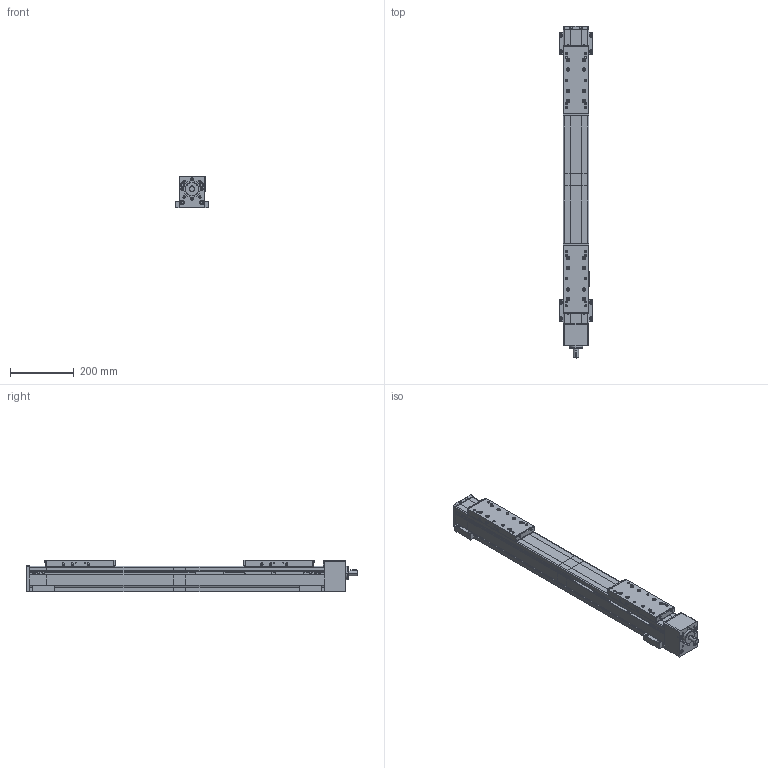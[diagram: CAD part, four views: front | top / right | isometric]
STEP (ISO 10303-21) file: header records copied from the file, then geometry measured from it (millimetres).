
FILE_DESCRIPTION(('Creo Elements/Direct Modeling STEP Export'),'2;1');
FILE_NAME('B080-SSS-RL-210-EN.stp','2020-02-25T 8:57:08',(''),(''),'Creo Elements/Direct Modeling STEP processor for AP214 (Solid Model)','Creo Elements/Direct Modeling 20.1C 13-Oct-2019 (C) Parametric Technology GmbH','');
FILE_SCHEMA(('AUTOMOTIVE_DESIGN { 1 0 10303 214 1 1 1 1 }'));
Length unit declared in the file: millimetre
Products named in the file (26): Beta080-SRS-SSS-Grundkoerper-Teil1; Beta080-SRS-SSS-Schlitten; Abstreiferbuerste-Blau_10504.02; Schraube_M_4x8_ISO_7380_va_10252.01; Abstreifer_kpl.02; Schlitten_kpl; Beta080-SRS-SSS-Grundkoerper-Teil2; BL2; BL2.1; Befestigungsleistenpaar; Befestigungsleistenpaar.1; Befestigungsleisten; NS3; NS3.1; Nutensteinpaar; Nutensteine; Endschalter_induktiv; Endschalter_induktiv.1; Endschalter_induktiv.2; Schaltfahne_10406; Linsenschraube_M4x8_EN_ISO_7380_1_10.9_vz_10243; Schaltfahne_10406_kpl; Endschalter-induktiv; B080-SSS-RL-210-EN
Assembly tree (29 placements, depth 4):
  B080-SSS-RL-210-EN
    Endschalter-induktiv
      Schaltfahne_10406_kpl
        Linsenschraube_M4x8_EN_ISO_7380_1_10.9_vz_10243  x2
        Schaltfahne_10406
      Endschalter_induktiv.2
      Endschalter_induktiv.1
      Endschalter_induktiv
    Schlitten_kpl  x2
      Abstreifer_kpl.02
        Schraube_M_4x8_ISO_7380_va_10252.01  x2
        Abstreiferbuerste-Blau_10504.02
      Beta080-SRS-SSS-Schlitten
    Nutensteine
      Nutensteinpaar
        NS3.1
        NS3
    Befestigungsleisten
      Befestigungsleistenpaar.1
        BL2.1
        BL2
      Befestigungsleistenpaar
        BL2.1
        BL2
    Beta080-SRS-SSS-Grundkoerper-Teil2
    Beta080-SRS-SSS-Grundkoerper-Teil1
Bounding box: 106 x 1038 x 100 mm (x, y, z)
Volume: 6948456.1 mm3; surface area: 604915.9 mm2
Topology: 28 solids, 28 shells, 1999 faces, 4585 edges, 2774 vertices
Faces by surface type: plane 1027, cylinder 668, cone 228, torus 56, sphere 20
Entity records: 41715 total; most frequent: CARTESIAN_POINT 9898, ORIENTED_EDGE 6830, DIRECTION 5642, EDGE_CURVE 3415, VERTEX_POINT 2112, AXIS2_PLACEMENT_3D 1905, VECTOR 1832, LINE 1832
